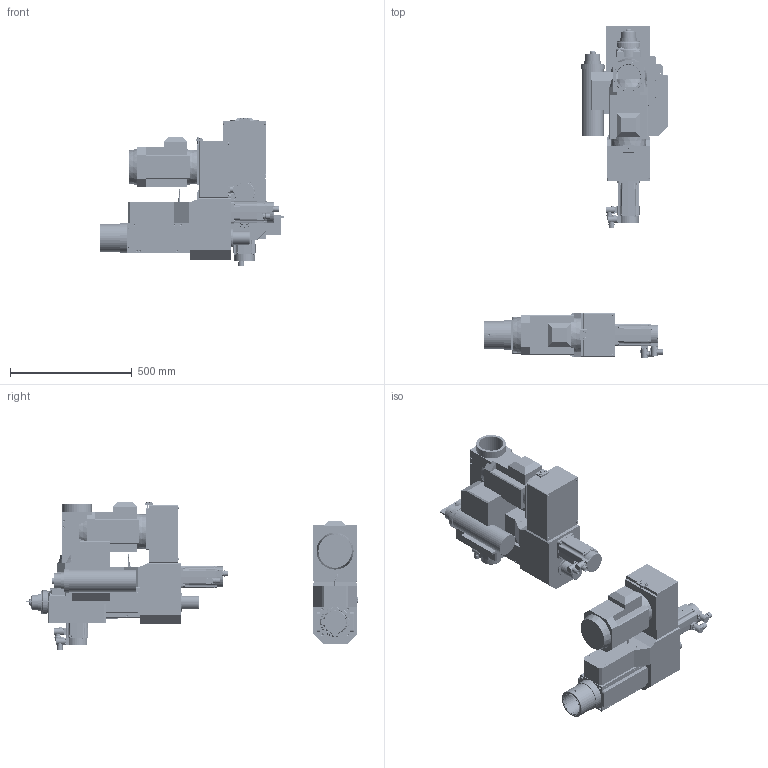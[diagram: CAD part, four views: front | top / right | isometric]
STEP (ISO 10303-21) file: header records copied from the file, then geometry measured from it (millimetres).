
FILE_DESCRIPTION( ( 'STEP AP203' ), '1' );
FILE_NAME( 'C:/Documents and Settings/Saverio/Desktop/disegni ironcad/unità serie 2/FMT 232 CN/FMT 232 CN_HSK50manual_A.stp', '2013-12-10T10:51:59', ( ' ' ), ( ' ' ), 'XStep 1.0', ' ', ' ' );
FILE_SCHEMA( ( 'CONFIG_CONTROL_DESIGN' ) );
Length unit declared in the file: metre
Products named in the file (40): Assem1; Assem2; Assem3; 1; 2; 3; 4; 5; 6; 7; 8; 9; 10; 11; 12; 13; 14; 15; 16; 17; 18; 19; 20; 21; 22; 23; 24; 25; 26; 27; 28; 29; 30; 31; 32; 33; 34; 35; 36; 37
Bounding box: 756.4 x 1362.82 x 609 mm (x, y, z)
Volume: 84202119.3 mm3; surface area: 5354522.3 mm2
Topology: 131 solids, 134 shells, 4650 faces, 11601 edges, 7571 vertices
Faces by surface type: plane 2270, cylinder 1612, cone 610, torus 86, bspline 72
Full cylindrical faces by diameter (mm): 1 x18, 2 x12, 3 x6, 4 x23, 4.2 x15, 4.5 x48, 4.918 x6, 5 x27, 5.5 x12, 6 x30, 6.5 x3, 7 x53, 7.4 x24, 8 x30, 8.5 x12, 9.87 x3, 10 x9, 13.5 x12, 18.3 x3, 19 x3, 19.2 x3, 20 x21, 21.7 x6, 22.7 x6, 25 x3, 25.4 x3, 26.7 x6, 35 x3, 42 x3, 42.5 x3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
Entity records: 45863 total; most frequent: CARTESIAN_POINT 11112, DIRECTION 6958, ORIENTED_EDGE 6266, EDGE_CURVE 3133, AXIS2_PLACEMENT_3D 2693, VERTEX_POINT 2250, EDGE_LOOP 1976, FACE_OUTER_BOUND 1636
